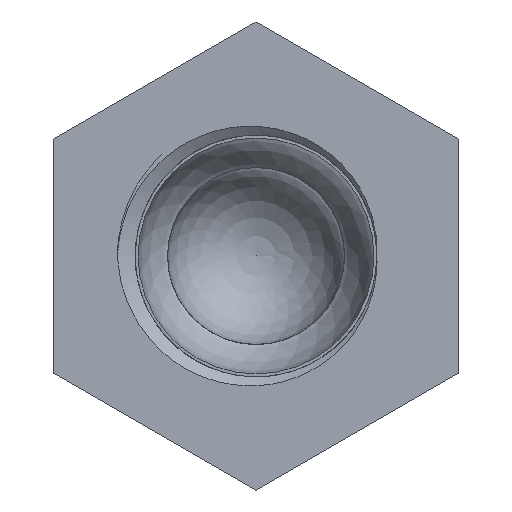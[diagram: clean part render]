
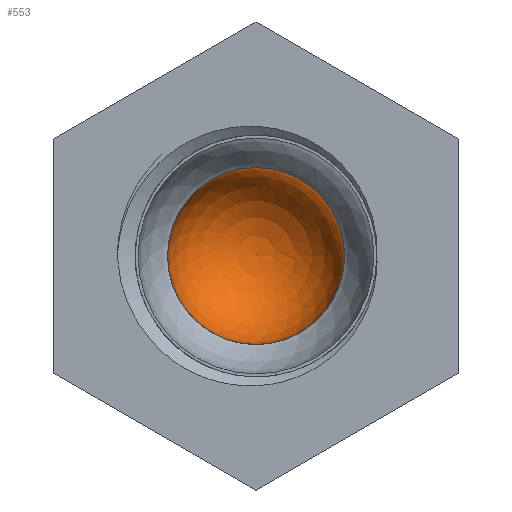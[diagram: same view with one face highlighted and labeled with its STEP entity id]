
A CAD part, left-side view. The second image highlights one B-rep face of the part: STEP entity #553.
In plain terms, the highlighted spherical face has radius 3.81 mm.
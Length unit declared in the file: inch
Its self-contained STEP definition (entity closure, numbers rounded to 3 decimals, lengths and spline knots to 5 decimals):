
#42=SPHERICAL_SURFACE('',#611,0.15);
#52=FACE_OUTER_BOUND('',#84,.T.);
#84=EDGE_LOOP('',(#402,#403,#404,#405));
#115=CIRCLE('',#612,0.15);
#116=CIRCLE('',#613,0.15);
#117=CIRCLE('',#614,0.15);
#245=VERTEX_POINT('',#1470);
#246=VERTEX_POINT('',#1471);
#247=VERTEX_POINT('',#1473);
#310=EDGE_CURVE('',#245,#246,#115,.T.);
#311=EDGE_CURVE('',#247,#245,#116,.T.);
#312=EDGE_CURVE('',#246,#245,#117,.T.);
#402=ORIENTED_EDGE('',*,*,#310,.F.);
#403=ORIENTED_EDGE('',*,*,#311,.F.);
#404=ORIENTED_EDGE('',*,*,#311,.T.);
#405=ORIENTED_EDGE('',*,*,#312,.F.);
#553=ADVANCED_FACE('',(#52),#42,.F.);
#611=AXIS2_PLACEMENT_3D('',#1469,#682,#683);
#612=AXIS2_PLACEMENT_3D('',#1472,#684,#685);
#613=AXIS2_PLACEMENT_3D('',#1474,#686,#687);
#614=AXIS2_PLACEMENT_3D('',#1475,#688,#689);
#682=DIRECTION('center_axis',(1.,0.,0.));
#683=DIRECTION('ref_axis',(0.,1.,0.));
#684=DIRECTION('center_axis',(1.,0.,0.));
#685=DIRECTION('ref_axis',(0.,0.,-1.));
#686=DIRECTION('center_axis',(0.,0.,
-1.));
#687=DIRECTION('ref_axis',(0.,-1.,0.));
#688=DIRECTION('center_axis',(1.,0.,0.));
#689=DIRECTION('ref_axis',(0.,0.,-1.));
#1469=CARTESIAN_POINT('Origin',(2.86927,1.65589,1.51301));
#1470=CARTESIAN_POINT('',(2.86927,1.50589,1.51301));
#1471=CARTESIAN_POINT('',(2.86927,1.65589,1.66301));
#1472=CARTESIAN_POINT('Origin',(2.86927,1.65589,1.51301));
#1473=CARTESIAN_POINT('',(3.01927,1.65589,1.51301));
#1474=CARTESIAN_POINT('Origin',(2.86927,1.65589,1.51301));
#1475=CARTESIAN_POINT('Origin',(2.86927,1.65589,1.51301));
